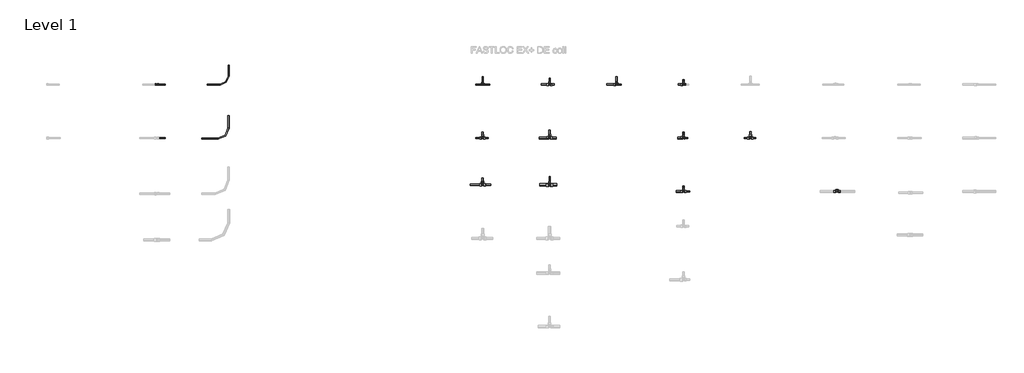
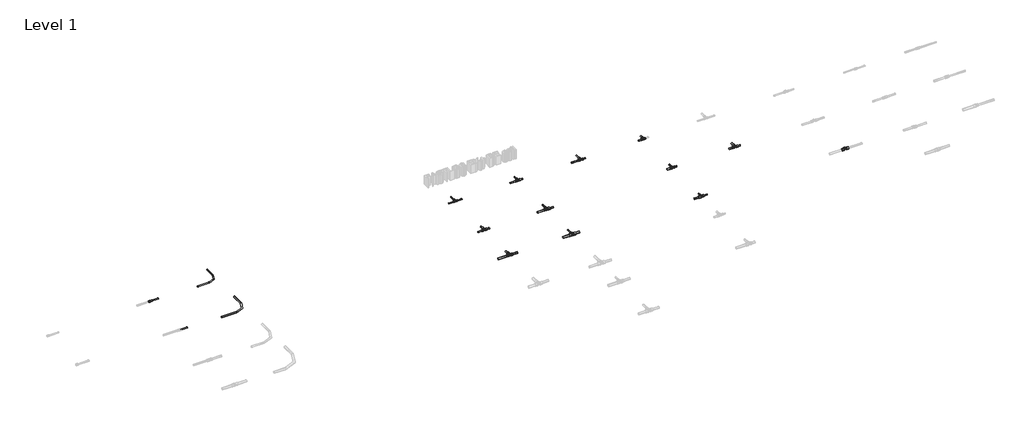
# One storey, part 13 of 16: 38 pipe segments, 16 pipe fittings.
"""IFC4 building model written with IfcOpenShell, lengths in millimetres."""

from ifc_helpers import new_model, si_unit, point, frame, frame_2d, origin, place, context, project, spatial, circle_curve, trimmed, segment, composite_curve, outline, extrude, transform, mapped, element, save
from components import pipe_fitting_688652c5, pipe_fitting_50552096, pipe_fitting_67dfde5a, pipe_fitting_bb304fa9, pipe_fitting_59775212, pipe_fitting_747b917b, pipe_fitting_d1a48cca, pipe_fitting_e42a4af1, pipe_fitting_e7337aea, pipe_fitting_b316c006, pipe_fitting_93b3fcde, pipe_fitting_ef50923d, pipe_fitting_c646100e, pipe_fitting_a9a2f976, pipe_fitting_f3faa13c, pipe_fitting_c9c9eba3

model = new_model("IFC4")

# Units and contexts
model_context = context("Model", 3, world=origin())
ifc_project = project(units=[si_unit("LENGTHUNIT", "METRE", prefix="MILLI")], contexts=[model_context])

# Site, building, storey
site = spatial("IfcSite", under=ifc_project)
building = spatial("IfcBuilding", under=site)
storey = spatial("IfcBuildingStorey", under=building, Name="Level 1", Elevation=0.0)

# Pipe fittings
placement = place(None, origin())
pipe_fitting_shape = pipe_fitting_688652c5(model_context)
element("IfcPipeFitting", 1, ObjectType="FASTLOC_T-piece internal thread EX+ : FSL T thread EX+ DE", at=placement, inside=storey, context=model_context, shape_type="MappedRepresentation", body=[
    mapped(pipe_fitting_shape, transform((34254.9423493, 412.3520033, 0.0), x_axis=(1.0, 0.0, 0.0), y_axis=(0.0, 1.0, 0.0), z_axis=(0.0, 0.0, 1.0))),
])
pipe_fitting_2_shape = pipe_fitting_50552096(model_context)
element("IfcPipeFitting", 2, ObjectType="FASTLOC_ML_bend : FSL ML DE", at=placement, inside=storey, context=model_context, shape_type="MappedRepresentation", body=[
    mapped(pipe_fitting_2_shape, transform((25170.2040344, 1204.3520033, 0.0), x_axis=(1.0, 0.0, 0.0), y_axis=(0.0, 1.0, 0.0), z_axis=(0.0, 0.0, 1.0))),
])
pipe_fitting_3_shape = pipe_fitting_67dfde5a(model_context)
element("IfcPipeFitting", 3, ObjectType="FASTLOC_T-piece_EX+ : FSL T-Piece EX+ DE", at=placement, inside=storey, context=model_context, shape_type="MappedRepresentation", body=[
    mapped(pipe_fitting_3_shape, transform((28962.9146925, 2012.3520033, 0.0), x_axis=(1.0, 0.0, 0.0), y_axis=(0.0, 1.0, 0.0), z_axis=(0.0, 0.0, 1.0))),
])
pipe_fitting_4_shape = pipe_fitting_bb304fa9(model_context)
element("IfcPipeFitting", 4, ObjectType="FASTLOC_T-piece_EX+ : FSL T-Piece EX+ DE", at=placement, inside=storey, context=model_context, shape_type="MappedRepresentation", body=[
    mapped(pipe_fitting_4_shape, transform((28962.9146925, 1212.3520033, 0.0), x_axis=(1.0, 0.0, 0.0), y_axis=(0.0, 1.0, 0.0), z_axis=(0.0, 0.0, 1.0))),
])
pipe_fitting_5_shape = pipe_fitting_59775212(model_context)
element("IfcPipeFitting", 5, ObjectType="FASTLOC_T-piece_EX+ : FSL T-Piece EX+ DE", at=placement, inside=storey, context=model_context, shape_type="MappedRepresentation", body=[
    mapped(pipe_fitting_5_shape, transform((28962.9146925, 512.3520033, 0.0), x_axis=(1.0, 0.0, 0.0), y_axis=(0.0, 1.0, 0.0), z_axis=(0.0, 0.0, 1.0))),
])
pipe_fitting_6_shape = pipe_fitting_747b917b(model_context)
element("IfcPipeFitting", 6, ObjectType="FASTLOC_T-piece_EX+ : FSL T-Piece EX+ DE", at=placement, inside=storey, context=model_context, shape_type="MappedRepresentation", body=[
    mapped(pipe_fitting_6_shape, transform((29962.9146925, 2012.3520033, 0.0), x_axis=(1.0, 0.0, 0.0), y_axis=(0.0, 1.0, 0.0), z_axis=(0.0, 0.0, 1.0))),
])
pipe_fitting_7_shape = pipe_fitting_d1a48cca(model_context)
element("IfcPipeFitting", 7, ObjectType="FASTLOC_T-piece_EX+ : FSL T-Piece EX+ DE", at=placement, inside=storey, context=model_context, shape_type="MappedRepresentation", body=[
    mapped(pipe_fitting_7_shape, transform((29962.9146925, 1212.3520033, 0.0), x_axis=(1.0, 0.0, 0.0), y_axis=(0.0, 1.0, 0.0), z_axis=(0.0, 0.0, 1.0))),
])
pipe_fitting_8_shape = pipe_fitting_e42a4af1(model_context)
element("IfcPipeFitting", 8, ObjectType="FASTLOC_T-piece_EX+ : FSL T-Piece EX+ DE", at=placement, inside=storey, context=model_context, shape_type="MappedRepresentation", body=[
    mapped(pipe_fitting_8_shape, transform((29962.9146925, 512.3520033, 0.0), x_axis=(1.0, 0.0, 0.0), y_axis=(0.0, 1.0, 0.0), z_axis=(0.0, 0.0, 1.0))),
])
pipe_fitting_9_shape = pipe_fitting_e7337aea(model_context)
element("IfcPipeFitting", 9, ObjectType="FASTLOC_T-piece_EX+ : FSL T-Piece EX+ DE", at=placement, inside=storey, context=model_context, shape_type="MappedRepresentation", body=[
    mapped(pipe_fitting_9_shape, transform((30962.9146925, 2012.3520033, 0.0), x_axis=(1.0, 0.0, 0.0), y_axis=(0.0, 1.0, 0.0), z_axis=(0.0, 0.0, 1.0))),
])
pipe_fitting_10_shape = pipe_fitting_b316c006(model_context)
element("IfcPipeFitting", 10, ObjectType="FASTLOC_T-piece_EX+ : FSL T-Piece EX+ DE", at=placement, inside=storey, context=model_context, shape_type="MappedRepresentation", body=[
    mapped(pipe_fitting_10_shape, transform((31962.9146925, 2012.3520033, 0.0), x_axis=(1.0, 0.0, 0.0), y_axis=(0.0, 1.0, 0.0), z_axis=(0.0, 0.0, 1.0))),
])
pipe_fitting_11_shape = pipe_fitting_93b3fcde(model_context)
element("IfcPipeFitting", 11, ObjectType="FASTLOC_T-piece_EX+ : FSL T-Piece EX+ DE", at=placement, inside=storey, context=model_context, shape_type="MappedRepresentation", body=[
    mapped(pipe_fitting_11_shape, transform((31962.9146925, 1212.3520033, 0.0), x_axis=(1.0, 0.0, 0.0), y_axis=(0.0, 1.0, 0.0), z_axis=(0.0, 0.0, 1.0))),
])
pipe_fitting_12_shape = pipe_fitting_ef50923d(model_context)
element("IfcPipeFitting", 12, ObjectType="FASTLOC_T-piece_EX+ : FSL T-Piece EX+ DE", at=placement, inside=storey, context=model_context, shape_type="MappedRepresentation", body=[
    mapped(pipe_fitting_12_shape, transform((31962.9146925, 412.3520033, 0.0), x_axis=(1.0, 0.0, 0.0), y_axis=(0.0, 1.0, 0.0), z_axis=(0.0, 0.0, 1.0))),
])
pipe_fitting_13_shape = pipe_fitting_c646100e(model_context)
element("IfcPipeFitting", 13, ObjectType="FASTLOC_T-piece_EX+ : FSL T-Piece EX+ DE", at=placement, inside=storey, context=model_context, shape_type="MappedRepresentation", body=[
    mapped(pipe_fitting_13_shape, transform((32962.9146925, 1212.3520033, 0.0), x_axis=(1.0, 0.0, 0.0), y_axis=(0.0, 1.0, 0.0), z_axis=(0.0, 0.0, 1.0))),
])
pipe_fitting_14_shape = pipe_fitting_a9a2f976(model_context)
element("IfcPipeFitting", 14, ObjectType="FASTLOC_ML_bend : FSL ML DE", at=placement, inside=storey, context=model_context, shape_type="MappedRepresentation", body=[
    mapped(pipe_fitting_14_shape, transform((25170.2040344, 2012.3520033, 0.0), x_axis=(1.0, 0.0, 0.0), y_axis=(0.0, 1.0, 0.0), z_axis=(0.0, 0.0, 1.0))),
])
pipe_fitting_15_shape = pipe_fitting_f3faa13c(model_context)
element("IfcPipeFitting", 15, ObjectType="FASTLOC_Adapter coupling EX+ : FSL TC EX+ DE", at=placement, inside=storey, context=model_context, shape_type="MappedRepresentation", body=[
    mapped(pipe_fitting_15_shape, transform((24091.3241081, 2012.3520033, 13.7), x_axis=(1.0, 0.0, 0.0), y_axis=(0.0, 1.0, 0.0), z_axis=(0.0, 0.0, 1.0))),
])
pipe_fitting_16_shape = pipe_fitting_c9c9eba3(model_context)
element("IfcPipeFitting", 16, ObjectType="RAUTITAN_Sleeve PX : RTI S PX", at=placement, inside=storey, context=model_context, shape_type="MappedRepresentation", body=[
    mapped(pipe_fitting_16_shape, transform((24105.0241081, 2012.3520033, 13.7), x_axis=(1.0, 0.0, 0.0), y_axis=(0.0, 1.0, 0.0), z_axis=(0.0, 0.0, 1.0))),
])

# Pipe segments
element("IfcPipeSegment", 17, ObjectType="FASTLOC EX+ ML DE bar", at=placement, inside=storey, context=model_context, shape_type="SweptSolid", body=[
    extrude(outline(composite_curve([segment(trimmed(circle_curve(frame_2d((0.0, 25170.2040344)), 8.0), [point((0.0, 25178.2040344))], [point((8.0, 25170.2040344))], False, "CARTESIAN"), True, "CONTINUOUS"), segment(trimmed(circle_curve(frame_2d((0.0, 25170.2040344)), 8.0), [point((8.0, 25170.2040344))], [point((0.0, 25162.2040344))], False, "CARTESIAN"), True, "CONTINUOUS"), segment(trimmed(circle_curve(frame_2d((0.0, 25170.2040344)), 8.0), [point((0.0, 25162.2040344))], [point((-8.0, 25170.2040344))], False, "CARTESIAN"), True, "CONTINUOUS"), segment(trimmed(circle_curve(frame_2d((0.0, 25170.2040344)), 8.0), [point((-8.0, 25170.2040344))], [point((0.0, 25178.2040344))], False, "CARTESIAN"), True, "CONTINUOUS")], self_intersect=False)), frame((0.0, 2140.3520033, 0.0), z_axis=(0.0, 1.0, 0.0), x_axis=(0.0, 0.0, 1.0)), (0.0, 0.0, 1.0), 160.0),
])
element("IfcPipeSegment", 18, ObjectType="FASTLOC EX+ ML DE bar", at=placement, inside=storey, context=model_context, shape_type="SweptSolid", body=[
    extrude(outline(composite_curve([segment(trimmed(circle_curve(frame_2d((2012.3520033, 0.0)), 8.0), [point((2020.3520033, 0.0))], [point((2012.3520033, -8.0))], False, "CARTESIAN"), True, "CONTINUOUS"), segment(trimmed(circle_curve(frame_2d((2012.3520033, 0.0)), 8.0), [point((2012.3520033, -8.0))], [point((2004.3520033, 0.0))], False, "CARTESIAN"), True, "CONTINUOUS"), segment(trimmed(circle_curve(frame_2d((2012.3520033, 0.0)), 8.0), [point((2004.3520033, 0.0))], [point((2012.3520033, 8.0))], False, "CARTESIAN"), True, "CONTINUOUS"), segment(trimmed(circle_curve(frame_2d((2012.3520033, 0.0)), 8.0), [point((2012.3520033, 8.0))], [point((2020.3520033, 0.0))], False, "CARTESIAN"), True, "CONTINUOUS")], self_intersect=False)), frame((24850.2040344, 0.0, 0.0), z_axis=(1.0, 0.0, 0.0), x_axis=(0.0, 1.0, 0.0)), (0.0, 0.0, 1.0), 192.0),
])
element("IfcPipeSegment", 19, ObjectType="FASTLOC EX+ ML DE bar", at=placement, inside=storey, context=model_context, shape_type="SweptSolid", body=[
    extrude(outline(composite_curve([segment(trimmed(circle_curve(frame_2d((0.0, 25170.2040344)), 10.0), [point((0.0, 25180.2040344))], [point((10.0, 25170.2040344))], False, "CARTESIAN"), True, "CONTINUOUS"), segment(trimmed(circle_curve(frame_2d((0.0, 25170.2040344)), 10.0), [point((10.0, 25170.2040344))], [point((0.0, 25160.2040344))], False, "CARTESIAN"), True, "CONTINUOUS"), segment(trimmed(circle_curve(frame_2d((0.0, 25170.2040344)), 10.0), [point((0.0, 25160.2040344))], [point((-10.0, 25170.2040344))], False, "CARTESIAN"), True, "CONTINUOUS"), segment(trimmed(circle_curve(frame_2d((0.0, 25170.2040344)), 10.0), [point((-10.0, 25170.2040344))], [point((0.0, 25180.2040344))], False, "CARTESIAN"), True, "CONTINUOUS")], self_intersect=False)), frame((0.0, 1364.3520033, 0.0), z_axis=(0.0, 1.0, 0.0), x_axis=(0.0, 0.0, 1.0)), (0.0, 0.0, 1.0), 180.0),
])
element("IfcPipeSegment", 20, ObjectType="FASTLOC EX+ ML DE bar", at=placement, inside=storey, context=model_context, shape_type="SweptSolid", body=[
    extrude(outline(composite_curve([segment(trimmed(circle_curve(frame_2d((1204.3520033, 0.0)), 10.0), [point((1214.3520033, 0.0))], [point((1204.3520033, -10.0))], False, "CARTESIAN"), True, "CONTINUOUS"), segment(trimmed(circle_curve(frame_2d((1204.3520033, 0.0)), 10.0), [point((1204.3520033, -10.0))], [point((1194.3520033, 0.0))], False, "CARTESIAN"), True, "CONTINUOUS"), segment(trimmed(circle_curve(frame_2d((1204.3520033, 0.0)), 10.0), [point((1194.3520033, 0.0))], [point((1204.3520033, 10.0))], False, "CARTESIAN"), True, "CONTINUOUS"), segment(trimmed(circle_curve(frame_2d((1204.3520033, 0.0)), 10.0), [point((1204.3520033, 10.0))], [point((1214.3520033, 0.0))], False, "CARTESIAN"), True, "CONTINUOUS")], self_intersect=False)), frame((24770.2040344, 0.0, 0.0), z_axis=(1.0, 0.0, 0.0), x_axis=(0.0, 1.0, 0.0)), (0.0, 0.0, 1.0), 240.0),
])
element("IfcPipeSegment", 21, ObjectType="FASTLOC EX+ ML DE bar", at=placement, inside=storey, context=model_context, shape_type="SweptSolid", body=[
    extrude(outline(composite_curve([segment(trimmed(circle_curve(frame_2d((1212.3520033, 13.7)), 10.0), [point((1202.3520033, 13.7))], [point((1212.3520033, 23.7))], False, "CARTESIAN"), True, "CONTINUOUS"), segment(trimmed(circle_curve(frame_2d((1212.3520033, 13.7)), 10.0), [point((1212.3520033, 23.7))], [point((1222.3520033, 13.7))], False, "CARTESIAN"), True, "CONTINUOUS"), segment(trimmed(circle_curve(frame_2d((1212.3520033, 13.7)), 10.0), [point((1222.3520033, 13.7))], [point((1212.3520033, 3.7))], False, "CARTESIAN"), True, "CONTINUOUS"), segment(trimmed(circle_curve(frame_2d((1212.3520033, 13.7)), 10.0), [point((1212.3520033, 3.7))], [point((1202.3520033, 13.7))], False, "CARTESIAN"), True, "CONTINUOUS")], self_intersect=False)), frame((24105.6241081, 0.0, 0.0), z_axis=(1.0, 0.0, 0.0), x_axis=(0.0, 1.0, 0.0)), (0.0, 0.0, 1.0), 120.0),
])
element("IfcPipeSegment", 22, ObjectType="FASTLOC EX+ ML DE bar", at=placement, inside=storey, context=model_context, shape_type="SweptSolid", body=[
    extrude(outline(composite_curve([segment(trimmed(circle_curve(frame_2d((2012.3520033, 13.7)), 8.0), [point((2004.3520033, 13.7))], [point((2012.3520033, 21.7))], False, "CARTESIAN"), True, "CONTINUOUS"), segment(trimmed(circle_curve(frame_2d((2012.3520033, 13.7)), 8.0), [point((2012.3520033, 21.7))], [point((2020.3520033, 13.7))], False, "CARTESIAN"), True, "CONTINUOUS"), segment(trimmed(circle_curve(frame_2d((2012.3520033, 13.7)), 8.0), [point((2020.3520033, 13.7))], [point((2012.3520033, 5.7))], False, "CARTESIAN"), True, "CONTINUOUS"), segment(trimmed(circle_curve(frame_2d((2012.3520033, 13.7)), 8.0), [point((2012.3520033, 5.7))], [point((2004.3520033, 13.7))], False, "CARTESIAN"), True, "CONTINUOUS")], self_intersect=False)), frame((24105.0241081, 0.0, 0.0), z_axis=(1.0, 0.0, 0.0), x_axis=(0.0, 1.0, 0.0)), (0.0, 0.0, 1.0), 120.6),
])
element("IfcPipeSegment", 23, ObjectType="FASTLOC EX+ ML DE coil", at=placement, inside=storey, context=model_context, shape_type="SweptSolid", body=[
    extrude(outline(composite_curve([segment(trimmed(circle_curve(frame_2d((1212.3520033, 0.0)), 10.0), [point((1222.3520033, 0.0))], [point((1212.3520033, -10.0))], False, "CARTESIAN"), True, "CONTINUOUS"), segment(trimmed(circle_curve(frame_2d((1212.3520033, 0.0)), 10.0), [point((1212.3520033, -10.0))], [point((1202.3520033, 0.0))], False, "CARTESIAN"), True, "CONTINUOUS"), segment(trimmed(circle_curve(frame_2d((1212.3520033, 0.0)), 10.0), [point((1202.3520033, 0.0))], [point((1212.3520033, 10.0))], False, "CARTESIAN"), True, "CONTINUOUS"), segment(trimmed(circle_curve(frame_2d((1212.3520033, 0.0)), 10.0), [point((1212.3520033, 10.0))], [point((1222.3520033, 0.0))], False, "CARTESIAN"), True, "CONTINUOUS")], self_intersect=False)), frame((32868.9146925, 0.0, 0.0), z_axis=(1.0, 0.0, 0.0), x_axis=(0.0, 1.0, 0.0)), (0.0, 0.0, 1.0), 75.0),
])
element("IfcPipeSegment", 24, ObjectType="FASTLOC EX+ ML DE coil", at=placement, inside=storey, context=model_context, shape_type="SweptSolid", body=[
    extrude(outline(composite_curve([segment(trimmed(circle_curve(frame_2d((1212.3520033, 0.0)), 10.0), [point((1202.3520033, 0.0))], [point((1212.3520033, 10.0))], False, "CARTESIAN"), True, "CONTINUOUS"), segment(trimmed(circle_curve(frame_2d((1212.3520033, 0.0)), 10.0), [point((1212.3520033, 10.0))], [point((1222.3520033, 0.0))], False, "CARTESIAN"), True, "CONTINUOUS"), segment(trimmed(circle_curve(frame_2d((1212.3520033, 0.0)), 10.0), [point((1222.3520033, 0.0))], [point((1212.3520033, -10.0))], False, "CARTESIAN"), True, "CONTINUOUS"), segment(trimmed(circle_curve(frame_2d((1212.3520033, 0.0)), 10.0), [point((1212.3520033, -10.0))], [point((1202.3520033, 0.0))], False, "CARTESIAN"), True, "CONTINUOUS")], self_intersect=False)), frame((32981.9146925, 0.0, 0.0), z_axis=(1.0, 0.0, 0.0), x_axis=(0.0, 1.0, 0.0)), (0.0, 0.0, 1.0), 60.0),
])
element("IfcPipeSegment", 25, ObjectType="FASTLOC EX+ ML DE coil", at=placement, inside=storey, context=model_context, shape_type="SweptSolid", body=[
    extrude(outline(composite_curve([segment(trimmed(circle_curve(frame_2d((0.0, 32962.9146925)), 12.5), [point((0.0, 32975.4146925))], [point((12.5, 32962.9146925))], False, "CARTESIAN"), True, "CONTINUOUS"), segment(trimmed(circle_curve(frame_2d((0.0, 32962.9146925)), 12.5), [point((12.5, 32962.9146925))], [point((0.0, 32950.4146925))], False, "CARTESIAN"), True, "CONTINUOUS"), segment(trimmed(circle_curve(frame_2d((0.0, 32962.9146925)), 12.5), [point((0.0, 32950.4146925))], [point((-12.5, 32962.9146925))], False, "CARTESIAN"), True, "CONTINUOUS"), segment(trimmed(circle_curve(frame_2d((0.0, 32962.9146925)), 12.5), [point((-12.5, 32962.9146925))], [point((0.0, 32975.4146925))], False, "CARTESIAN"), True, "CONTINUOUS")], self_intersect=False)), frame((0.0, 1239.1520033, 0.0), z_axis=(0.0, 1.0, 0.0), x_axis=(0.0, 0.0, 1.0)), (0.0, 0.0, 1.0), 70.0),
])
element("IfcPipeSegment", 26, ObjectType="FASTLOC EX+ ML DE coil", at=placement, inside=storey, context=model_context, shape_type="SweptSolid", body=[
    extrude(outline(composite_curve([segment(trimmed(circle_curve(frame_2d((2012.3520033, 0.0)), 10.0), [point((2022.3520033, 0.0))], [point((2012.3520033, -10.0))], False, "CARTESIAN"), True, "CONTINUOUS"), segment(trimmed(circle_curve(frame_2d((2012.3520033, 0.0)), 10.0), [point((2012.3520033, -10.0))], [point((2002.3520033, 0.0))], False, "CARTESIAN"), True, "CONTINUOUS"), segment(trimmed(circle_curve(frame_2d((2012.3520033, 0.0)), 10.0), [point((2002.3520033, 0.0))], [point((2012.3520033, 10.0))], False, "CARTESIAN"), True, "CONTINUOUS"), segment(trimmed(circle_curve(frame_2d((2012.3520033, 0.0)), 10.0), [point((2012.3520033, 10.0))], [point((2022.3520033, 0.0))], False, "CARTESIAN"), True, "CONTINUOUS")], self_intersect=False)), frame((31882.4146925, 0.0, 0.0), z_axis=(1.0, 0.0, 0.0), x_axis=(0.0, 1.0, 0.0)), (0.0, 0.0, 1.0), 65.0),
])
element("IfcPipeSegment", 27, ObjectType="FASTLOC EX+ ML DE coil", at=placement, inside=storey, context=model_context, shape_type="SweptSolid", body=[
    extrude(outline(composite_curve([segment(trimmed(circle_curve(frame_2d((0.0, 31962.9146925)), 8.0), [point((0.0, 31970.9146925))], [point((8.0, 31962.9146925))], False, "CARTESIAN"), True, "CONTINUOUS"), segment(trimmed(circle_curve(frame_2d((0.0, 31962.9146925)), 8.0), [point((8.0, 31962.9146925))], [point((0.0, 31954.9146925))], False, "CARTESIAN"), True, "CONTINUOUS"), segment(trimmed(circle_curve(frame_2d((0.0, 31962.9146925)), 8.0), [point((0.0, 31954.9146925))], [point((-8.0, 31962.9146925))], False, "CARTESIAN"), True, "CONTINUOUS"), segment(trimmed(circle_curve(frame_2d((0.0, 31962.9146925)), 8.0), [point((-8.0, 31962.9146925))], [point((0.0, 31970.9146925))], False, "CARTESIAN"), True, "CONTINUOUS")], self_intersect=False)), frame((0.0, 2038.7520033, 0.0), z_axis=(0.0, 1.0, 0.0), x_axis=(0.0, 0.0, 1.0)), (0.0, 0.0, 1.0), 50.0),
])
element("IfcPipeSegment", 28, ObjectType="FASTLOC EX+ ML DE coil", at=placement, inside=storey, context=model_context, shape_type="SweptSolid", body=[
    extrude(outline(composite_curve([segment(trimmed(circle_curve(frame_2d((1212.3520033, 0.0)), 8.0), [point((1204.3520033, 0.0))], [point((1212.3520033, 8.0))], False, "CARTESIAN"), True, "CONTINUOUS"), segment(trimmed(circle_curve(frame_2d((1212.3520033, 0.0)), 8.0), [point((1212.3520033, 8.0))], [point((1220.3520033, 0.0))], False, "CARTESIAN"), True, "CONTINUOUS"), segment(trimmed(circle_curve(frame_2d((1212.3520033, 0.0)), 8.0), [point((1220.3520033, 0.0))], [point((1212.3520033, -8.0))], False, "CARTESIAN"), True, "CONTINUOUS"), segment(trimmed(circle_curve(frame_2d((1212.3520033, 0.0)), 8.0), [point((1212.3520033, -8.0))], [point((1204.3520033, 0.0))], False, "CARTESIAN"), True, "CONTINUOUS")], self_intersect=False)), frame((31978.0146925, 0.0, 0.0), z_axis=(1.0, 0.0, 0.0), x_axis=(0.0, 1.0, 0.0)), (0.0, 0.0, 1.0), 51.7891439),
])
element("IfcPipeSegment", 29, ObjectType="FASTLOC EX+ ML DE coil", at=placement, inside=storey, context=model_context, shape_type="SweptSolid", body=[
    extrude(outline(composite_curve([segment(trimmed(circle_curve(frame_2d((1212.3520033, 0.0)), 12.5), [point((1224.8520033, 0.0))], [point((1212.3520033, -12.5))], False, "CARTESIAN"), True, "CONTINUOUS"), segment(trimmed(circle_curve(frame_2d((1212.3520033, 0.0)), 12.5), [point((1212.3520033, -12.5))], [point((1199.8520033, 0.0))], False, "CARTESIAN"), True, "CONTINUOUS"), segment(trimmed(circle_curve(frame_2d((1212.3520033, 0.0)), 12.5), [point((1199.8520033, 0.0))], [point((1212.3520033, 12.5))], False, "CARTESIAN"), True, "CONTINUOUS"), segment(trimmed(circle_curve(frame_2d((1212.3520033, 0.0)), 12.5), [point((1212.3520033, 12.5))], [point((1224.8520033, 0.0))], False, "CARTESIAN"), True, "CONTINUOUS")], self_intersect=False)), frame((31876.5146925, 0.0, 0.0), z_axis=(1.0, 0.0, 0.0), x_axis=(0.0, 1.0, 0.0)), (0.0, 0.0, 1.0), 70.0),
])
element("IfcPipeSegment", 30, ObjectType="FASTLOC EX+ ML DE coil", at=placement, inside=storey, context=model_context, shape_type="SweptSolid", body=[
    extrude(outline(composite_curve([segment(trimmed(circle_curve(frame_2d((0.0, 31962.9146925)), 8.0), [point((0.0, 31970.9146925))], [point((8.0, 31962.9146925))], False, "CARTESIAN"), True, "CONTINUOUS"), segment(trimmed(circle_curve(frame_2d((0.0, 31962.9146925)), 8.0), [point((8.0, 31962.9146925))], [point((0.0, 31954.9146925))], False, "CARTESIAN"), True, "CONTINUOUS"), segment(trimmed(circle_curve(frame_2d((0.0, 31962.9146925)), 8.0), [point((0.0, 31954.9146925))], [point((-8.0, 31962.9146925))], False, "CARTESIAN"), True, "CONTINUOUS"), segment(trimmed(circle_curve(frame_2d((0.0, 31962.9146925)), 8.0), [point((-8.0, 31962.9146925))], [point((0.0, 31970.9146925))], False, "CARTESIAN"), True, "CONTINUOUS")], self_intersect=False)), frame((0.0, 1241.4520033, 0.0), z_axis=(0.0, 1.0, 0.0), x_axis=(0.0, 0.0, 1.0)), (0.0, 0.0, 1.0), 57.2788778),
])
element("IfcPipeSegment", 31, ObjectType="FASTLOC EX+ ML DE coil", at=placement, inside=storey, context=model_context, shape_type="SweptSolid", body=[
    extrude(outline(composite_curve([segment(trimmed(circle_curve(frame_2d((412.3520033, 0.0)), 10.0), [point((402.3520033, 0.0))], [point((412.3520033, 10.0))], False, "CARTESIAN"), True, "CONTINUOUS"), segment(trimmed(circle_curve(frame_2d((412.3520033, 0.0)), 10.0), [point((412.3520033, 10.0))], [point((422.3520033, 0.0))], False, "CARTESIAN"), True, "CONTINUOUS"), segment(trimmed(circle_curve(frame_2d((412.3520033, 0.0)), 10.0), [point((422.3520033, 0.0))], [point((412.3520033, -10.0))], False, "CARTESIAN"), True, "CONTINUOUS"), segment(trimmed(circle_curve(frame_2d((412.3520033, 0.0)), 10.0), [point((412.3520033, -10.0))], [point((402.3520033, 0.0))], False, "CARTESIAN"), True, "CONTINUOUS")], self_intersect=False)), frame((31978.4146925, 0.0, 0.0), z_axis=(1.0, 0.0, 0.0), x_axis=(0.0, 1.0, 0.0)), (0.0, 0.0, 1.0), 75.0),
])
element("IfcPipeSegment", 32, ObjectType="FASTLOC EX+ ML DE coil", at=placement, inside=storey, context=model_context, shape_type="SweptSolid", body=[
    extrude(outline(composite_curve([segment(trimmed(circle_curve(frame_2d((0.0, 31962.9146925)), 8.0), [point((0.0, 31970.9146925))], [point((8.0, 31962.9146925))], False, "CARTESIAN"), True, "CONTINUOUS"), segment(trimmed(circle_curve(frame_2d((0.0, 31962.9146925)), 8.0), [point((8.0, 31962.9146925))], [point((0.0, 31954.9146925))], False, "CARTESIAN"), True, "CONTINUOUS"), segment(trimmed(circle_curve(frame_2d((0.0, 31962.9146925)), 8.0), [point((0.0, 31954.9146925))], [point((-8.0, 31962.9146925))], False, "CARTESIAN"), True, "CONTINUOUS"), segment(trimmed(circle_curve(frame_2d((0.0, 31962.9146925)), 8.0), [point((-8.0, 31962.9146925))], [point((0.0, 31970.9146925))], False, "CARTESIAN"), True, "CONTINUOUS")], self_intersect=False)), frame((0.0, 441.4520033, 0.0), z_axis=(0.0, 1.0, 0.0), x_axis=(0.0, 0.0, 1.0)), (0.0, 0.0, 1.0), 50.0),
])
element("IfcPipeSegment", 33, ObjectType="FASTLOC EX+ ML DE coil", at=placement, inside=storey, context=model_context, shape_type="SweptSolid", body=[
    extrude(outline(composite_curve([segment(trimmed(circle_curve(frame_2d((412.3520033, 0.0)), 12.5), [point((424.8520033, 0.0))], [point((412.3520033, -12.5))], False, "CARTESIAN"), True, "CONTINUOUS"), segment(trimmed(circle_curve(frame_2d((412.3520033, 0.0)), 12.5), [point((412.3520033, -12.5))], [point((399.8520033, 0.0))], False, "CARTESIAN"), True, "CONTINUOUS"), segment(trimmed(circle_curve(frame_2d((412.3520033, 0.0)), 12.5), [point((399.8520033, 0.0))], [point((412.3520033, 12.5))], False, "CARTESIAN"), True, "CONTINUOUS"), segment(trimmed(circle_curve(frame_2d((412.3520033, 0.0)), 12.5), [point((412.3520033, 12.5))], [point((424.8520033, 0.0))], False, "CARTESIAN"), True, "CONTINUOUS")], self_intersect=False)), frame((31851.5146925, 0.0, 0.0), z_axis=(1.0, 0.0, 0.0), x_axis=(0.0, 1.0, 0.0)), (0.0, 0.0, 1.0), 95.0),
])
element("IfcPipeSegment", 34, ObjectType="FASTLOC EX+ ML DE coil", at=placement, inside=storey, context=model_context, shape_type="SweptSolid", body=[
    extrude(outline(composite_curve([segment(trimmed(circle_curve(frame_2d((2012.3520033, 0.0)), 8.0), [point((2004.3520033, 0.0))], [point((2012.3520033, 8.0))], False, "CARTESIAN"), True, "CONTINUOUS"), segment(trimmed(circle_curve(frame_2d((2012.3520033, 0.0)), 8.0), [point((2012.3520033, 8.0))], [point((2020.3520033, 0.0))], False, "CARTESIAN"), True, "CONTINUOUS"), segment(trimmed(circle_curve(frame_2d((2012.3520033, 0.0)), 8.0), [point((2020.3520033, 0.0))], [point((2012.3520033, -8.0))], False, "CARTESIAN"), True, "CONTINUOUS"), segment(trimmed(circle_curve(frame_2d((2012.3520033, 0.0)), 8.0), [point((2012.3520033, -8.0))], [point((2004.3520033, 0.0))], False, "CARTESIAN"), True, "CONTINUOUS")], self_intersect=False)), frame((30979.9146925, 0.0, 0.0), z_axis=(1.0, 0.0, 0.0), x_axis=(0.0, 1.0, 0.0)), (0.0, 0.0, 1.0), 55.0),
])
element("IfcPipeSegment", 35, ObjectType="FASTLOC EX+ ML DE coil", at=placement, inside=storey, context=model_context, shape_type="SweptSolid", body=[
    extrude(outline(composite_curve([segment(trimmed(circle_curve(frame_2d((0.0, 30962.9146925)), 10.0), [point((0.0, 30972.9146925))], [point((10.0, 30962.9146925))], False, "CARTESIAN"), True, "CONTINUOUS"), segment(trimmed(circle_curve(frame_2d((0.0, 30962.9146925)), 10.0), [point((10.0, 30962.9146925))], [point((0.0, 30952.9146925))], False, "CARTESIAN"), True, "CONTINUOUS"), segment(trimmed(circle_curve(frame_2d((0.0, 30962.9146925)), 10.0), [point((0.0, 30952.9146925))], [point((-10.0, 30962.9146925))], False, "CARTESIAN"), True, "CONTINUOUS"), segment(trimmed(circle_curve(frame_2d((0.0, 30962.9146925)), 10.0), [point((-10.0, 30962.9146925))], [point((0.0, 30972.9146925))], False, "CARTESIAN"), True, "CONTINUOUS")], self_intersect=False)), frame((0.0, 2038.7520033, 0.0), z_axis=(0.0, 1.0, 0.0), x_axis=(0.0, 0.0, 1.0)), (0.0, 0.0, 1.0), 90.0),
])
element("IfcPipeSegment", 36, ObjectType="FASTLOC EX+ ML DE coil", at=placement, inside=storey, context=model_context, shape_type="SweptSolid", body=[
    extrude(outline(composite_curve([segment(trimmed(circle_curve(frame_2d((2012.3520033, 0.0)), 10.0), [point((2022.3520033, 0.0))], [point((2012.3520033, -10.0))], False, "CARTESIAN"), True, "CONTINUOUS"), segment(trimmed(circle_curve(frame_2d((2012.3520033, 0.0)), 10.0), [point((2012.3520033, -10.0))], [point((2002.3520033, 0.0))], False, "CARTESIAN"), True, "CONTINUOUS"), segment(trimmed(circle_curve(frame_2d((2012.3520033, 0.0)), 10.0), [point((2002.3520033, 0.0))], [point((2012.3520033, 10.0))], False, "CARTESIAN"), True, "CONTINUOUS"), segment(trimmed(circle_curve(frame_2d((2012.3520033, 0.0)), 10.0), [point((2012.3520033, 10.0))], [point((2022.3520033, 0.0))], False, "CARTESIAN"), True, "CONTINUOUS")], self_intersect=False)), frame((30815.5146925, 0.0, 0.0), z_axis=(1.0, 0.0, 0.0), x_axis=(0.0, 1.0, 0.0)), (0.0, 0.0, 1.0), 130.0),
])
element("IfcPipeSegment", 37, ObjectType="FASTLOC EX+ ML DE coil", at=placement, inside=storey, context=model_context, shape_type="SweptSolid", body=[
    extrude(outline(composite_curve([segment(trimmed(circle_curve(frame_2d((2012.3520033, 0.0)), 10.0), [point((2002.3520033, 0.0))], [point((2012.3520033, 10.0))], False, "CARTESIAN"), True, "CONTINUOUS"), segment(trimmed(circle_curve(frame_2d((2012.3520033, 0.0)), 10.0), [point((2012.3520033, 10.0))], [point((2022.3520033, 0.0))], False, "CARTESIAN"), True, "CONTINUOUS"), segment(trimmed(circle_curve(frame_2d((2012.3520033, 0.0)), 10.0), [point((2022.3520033, 0.0))], [point((2012.3520033, -10.0))], False, "CARTESIAN"), True, "CONTINUOUS"), segment(trimmed(circle_curve(frame_2d((2012.3520033, 0.0)), 10.0), [point((2012.3520033, -10.0))], [point((2002.3520033, 0.0))], False, "CARTESIAN"), True, "CONTINUOUS")], self_intersect=False)), frame((29978.2146925, 0.0, 0.0), z_axis=(1.0, 0.0, 0.0), x_axis=(0.0, 1.0, 0.0)), (0.0, 0.0, 1.0), 55.0),
])
element("IfcPipeSegment", 38, ObjectType="FASTLOC EX+ ML DE coil", at=placement, inside=storey, context=model_context, shape_type="SweptSolid", body=[
    extrude(outline(composite_curve([segment(trimmed(circle_curve(frame_2d((0.0, 29962.9146925)), 8.0), [point((0.0, 29970.9146925))], [point((8.0, 29962.9146925))], False, "CARTESIAN"), True, "CONTINUOUS"), segment(trimmed(circle_curve(frame_2d((0.0, 29962.9146925)), 8.0), [point((8.0, 29962.9146925))], [point((0.0, 29954.9146925))], False, "CARTESIAN"), True, "CONTINUOUS"), segment(trimmed(circle_curve(frame_2d((0.0, 29962.9146925)), 8.0), [point((0.0, 29954.9146925))], [point((-8.0, 29962.9146925))], False, "CARTESIAN"), True, "CONTINUOUS"), segment(trimmed(circle_curve(frame_2d((0.0, 29962.9146925)), 8.0), [point((-8.0, 29962.9146925))], [point((0.0, 29970.9146925))], False, "CARTESIAN"), True, "CONTINUOUS")], self_intersect=False)), frame((0.0, 2038.6520033, 0.0), z_axis=(0.0, 1.0, 0.0), x_axis=(0.0, 0.0, 1.0)), (0.0, 0.0, 1.0), 70.0),
])
element("IfcPipeSegment", 39, ObjectType="FASTLOC EX+ ML DE coil", at=placement, inside=storey, context=model_context, shape_type="SweptSolid", body=[
    extrude(outline(composite_curve([segment(trimmed(circle_curve(frame_2d((2012.3520033, 0.0)), 10.0), [point((2022.3520033, 0.0))], [point((2012.3520033, -10.0))], False, "CARTESIAN"), True, "CONTINUOUS"), segment(trimmed(circle_curve(frame_2d((2012.3520033, 0.0)), 10.0), [point((2012.3520033, -10.0))], [point((2002.3520033, 0.0))], False, "CARTESIAN"), True, "CONTINUOUS"), segment(trimmed(circle_curve(frame_2d((2012.3520033, 0.0)), 10.0), [point((2002.3520033, 0.0))], [point((2012.3520033, 10.0))], False, "CARTESIAN"), True, "CONTINUOUS"), segment(trimmed(circle_curve(frame_2d((2012.3520033, 0.0)), 10.0), [point((2012.3520033, 10.0))], [point((2022.3520033, 0.0))], False, "CARTESIAN"), True, "CONTINUOUS")], self_intersect=False)), frame((29837.6146925, 0.0, 0.0), z_axis=(1.0, 0.0, 0.0), x_axis=(0.0, 1.0, 0.0)), (0.0, 0.0, 1.0), 110.0),
])
element("IfcPipeSegment", 40, ObjectType="FASTLOC EX+ ML DE coil", at=placement, inside=storey, context=model_context, shape_type="SweptSolid", body=[
    extrude(outline(composite_curve([segment(trimmed(circle_curve(frame_2d((1212.3520033, 0.0)), 12.5), [point((1199.8520033, 0.0))], [point((1212.3520033, 12.5))], False, "CARTESIAN"), True, "CONTINUOUS"), segment(trimmed(circle_curve(frame_2d((1212.3520033, 0.0)), 12.5), [point((1212.3520033, 12.5))], [point((1224.8520033, 0.0))], False, "CARTESIAN"), True, "CONTINUOUS"), segment(trimmed(circle_curve(frame_2d((1212.3520033, 0.0)), 12.5), [point((1224.8520033, 0.0))], [point((1212.3520033, -12.5))], False, "CARTESIAN"), True, "CONTINUOUS"), segment(trimmed(circle_curve(frame_2d((1212.3520033, 0.0)), 12.5), [point((1212.3520033, -12.5))], [point((1199.8520033, 0.0))], False, "CARTESIAN"), True, "CONTINUOUS")], self_intersect=False)), frame((29981.0146925, 0.0, 0.0), z_axis=(1.0, 0.0, 0.0), x_axis=(0.0, 1.0, 0.0)), (0.0, 0.0, 1.0), 80.0),
])
element("IfcPipeSegment", 41, ObjectType="FASTLOC EX+ ML DE coil", at=placement, inside=storey, context=model_context, shape_type="SweptSolid", body=[
    extrude(outline(composite_curve([segment(trimmed(circle_curve(frame_2d((0.0, 29962.9146925)), 10.0), [point((0.0, 29972.9146925))], [point((10.0, 29962.9146925))], False, "CARTESIAN"), True, "CONTINUOUS"), segment(trimmed(circle_curve(frame_2d((0.0, 29962.9146925)), 10.0), [point((10.0, 29962.9146925))], [point((0.0, 29952.9146925))], False, "CARTESIAN"), True, "CONTINUOUS"), segment(trimmed(circle_curve(frame_2d((0.0, 29962.9146925)), 10.0), [point((0.0, 29952.9146925))], [point((-10.0, 29962.9146925))], False, "CARTESIAN"), True, "CONTINUOUS"), segment(trimmed(circle_curve(frame_2d((0.0, 29962.9146925)), 10.0), [point((-10.0, 29962.9146925))], [point((0.0, 29972.9146925))], False, "CARTESIAN"), True, "CONTINUOUS")], self_intersect=False)), frame((0.0, 1241.5520033, 0.0), z_axis=(0.0, 1.0, 0.0), x_axis=(0.0, 0.0, 1.0)), (0.0, 0.0, 1.0), 90.0),
])
element("IfcPipeSegment", 42, ObjectType="FASTLOC EX+ ML DE coil", at=placement, inside=storey, context=model_context, shape_type="SweptSolid", body=[
    extrude(outline(composite_curve([segment(trimmed(circle_curve(frame_2d((1212.3520033, 0.0)), 12.5), [point((1224.8520033, 0.0))], [point((1212.3520033, -12.5))], False, "CARTESIAN"), True, "CONTINUOUS"), segment(trimmed(circle_curve(frame_2d((1212.3520033, 0.0)), 12.5), [point((1212.3520033, -12.5))], [point((1199.8520033, 0.0))], False, "CARTESIAN"), True, "CONTINUOUS"), segment(trimmed(circle_curve(frame_2d((1212.3520033, 0.0)), 12.5), [point((1199.8520033, 0.0))], [point((1212.3520033, 12.5))], False, "CARTESIAN"), True, "CONTINUOUS"), segment(trimmed(circle_curve(frame_2d((1212.3520033, 0.0)), 12.5), [point((1212.3520033, 12.5))], [point((1224.8520033, 0.0))], False, "CARTESIAN"), True, "CONTINUOUS")], self_intersect=False)), frame((29809.8146925, 0.0, 0.0), z_axis=(1.0, 0.0, 0.0), x_axis=(0.0, 1.0, 0.0)), (0.0, 0.0, 1.0), 135.0),
])
element("IfcPipeSegment", 43, ObjectType="FASTLOC EX+ ML DE coil", at=placement, inside=storey, context=model_context, shape_type="SweptSolid", body=[
    extrude(outline(composite_curve([segment(trimmed(circle_curve(frame_2d((512.3520033, 0.0)), 16.0), [point((496.3520033, 0.0))], [point((512.3520033, 16.0))], False, "CARTESIAN"), True, "CONTINUOUS"), segment(trimmed(circle_curve(frame_2d((512.3520033, 0.0)), 16.0), [point((512.3520033, 16.0))], [point((528.3520033, 0.0))], False, "CARTESIAN"), True, "CONTINUOUS"), segment(trimmed(circle_curve(frame_2d((512.3520033, 0.0)), 16.0), [point((528.3520033, 0.0))], [point((512.3520033, -16.0))], False, "CARTESIAN"), True, "CONTINUOUS"), segment(trimmed(circle_curve(frame_2d((512.3520033, 0.0)), 16.0), [point((512.3520033, -16.0))], [point((496.3520033, 0.0))], False, "CARTESIAN"), True, "CONTINUOUS")], self_intersect=False)), frame((29981.2146925, 0.0, 0.0), z_axis=(1.0, 0.0, 0.0), x_axis=(0.0, 1.0, 0.0)), (0.0, 0.0, 1.0), 90.0),
])
element("IfcPipeSegment", 44, ObjectType="FASTLOC EX+ ML DE coil", at=placement, inside=storey, context=model_context, shape_type="SweptSolid", body=[
    extrude(outline(composite_curve([segment(trimmed(circle_curve(frame_2d((0.0, 29962.9146925)), 8.0), [point((0.0, 29970.9146925))], [point((8.0, 29962.9146925))], False, "CARTESIAN"), True, "CONTINUOUS"), segment(trimmed(circle_curve(frame_2d((0.0, 29962.9146925)), 8.0), [point((8.0, 29962.9146925))], [point((0.0, 29954.9146925))], False, "CARTESIAN"), True, "CONTINUOUS"), segment(trimmed(circle_curve(frame_2d((0.0, 29962.9146925)), 8.0), [point((0.0, 29954.9146925))], [point((-8.0, 29962.9146925))], False, "CARTESIAN"), True, "CONTINUOUS"), segment(trimmed(circle_curve(frame_2d((0.0, 29962.9146925)), 8.0), [point((-8.0, 29962.9146925))], [point((0.0, 29970.9146925))], False, "CARTESIAN"), True, "CONTINUOUS")], self_intersect=False)), frame((0.0, 546.2520033, 0.0), z_axis=(0.0, 1.0, 0.0), x_axis=(0.0, 0.0, 1.0)), (0.0, 0.0, 1.0), 90.0),
])
element("IfcPipeSegment", 45, ObjectType="FASTLOC EX+ ML DE coil", at=placement, inside=storey, context=model_context, shape_type="SweptSolid", body=[
    extrude(outline(composite_curve([segment(trimmed(circle_curve(frame_2d((512.3520033, 0.0)), 16.0), [point((528.3520033, 0.0))], [point((512.3520033, -16.0))], False, "CARTESIAN"), True, "CONTINUOUS"), segment(trimmed(circle_curve(frame_2d((512.3520033, 0.0)), 16.0), [point((512.3520033, -16.0))], [point((496.3520033, 0.0))], False, "CARTESIAN"), True, "CONTINUOUS"), segment(trimmed(circle_curve(frame_2d((512.3520033, 0.0)), 16.0), [point((496.3520033, 0.0))], [point((512.3520033, 16.0))], False, "CARTESIAN"), True, "CONTINUOUS"), segment(trimmed(circle_curve(frame_2d((512.3520033, 0.0)), 16.0), [point((512.3520033, 16.0))], [point((528.3520033, 0.0))], False, "CARTESIAN"), True, "CONTINUOUS")], self_intersect=False)), frame((29814.6146925, 0.0, 0.0), z_axis=(1.0, 0.0, 0.0), x_axis=(0.0, 1.0, 0.0)), (0.0, 0.0, 1.0), 130.0),
])
element("IfcPipeSegment", 46, ObjectType="FASTLOC EX+ ML DE coil", at=placement, inside=storey, context=model_context, shape_type="SweptSolid", body=[
    extrude(outline(composite_curve([segment(trimmed(circle_curve(frame_2d((0.0, 28962.9146925)), 12.5), [point((0.0, 28975.4146925))], [point((12.5, 28962.9146925))], False, "CARTESIAN"), True, "CONTINUOUS"), segment(trimmed(circle_curve(frame_2d((0.0, 28962.9146925)), 12.5), [point((12.5, 28962.9146925))], [point((0.0, 28950.4146925))], False, "CARTESIAN"), True, "CONTINUOUS"), segment(trimmed(circle_curve(frame_2d((0.0, 28962.9146925)), 12.5), [point((0.0, 28950.4146925))], [point((-12.5, 28962.9146925))], False, "CARTESIAN"), True, "CONTINUOUS"), segment(trimmed(circle_curve(frame_2d((0.0, 28962.9146925)), 12.5), [point((-12.5, 28962.9146925))], [point((0.0, 28975.4146925))], False, "CARTESIAN"), True, "CONTINUOUS")], self_intersect=False)), frame((0.0, 541.8520033, 0.0), z_axis=(0.0, 1.0, 0.0), x_axis=(0.0, 0.0, 1.0)), (0.0, 0.0, 1.0), 70.0),
])
element("IfcPipeSegment", 47, ObjectType="FASTLOC EX+ ML DE coil", at=placement, inside=storey, context=model_context, shape_type="SweptSolid", body=[
    extrude(outline(composite_curve([segment(trimmed(circle_curve(frame_2d((512.3520033, 0.0)), 12.5), [point((499.8520033, 0.0))], [point((512.3520033, 12.5))], False, "CARTESIAN"), True, "CONTINUOUS"), segment(trimmed(circle_curve(frame_2d((512.3520033, 0.0)), 12.5), [point((512.3520033, 12.5))], [point((524.8520033, 0.0))], False, "CARTESIAN"), True, "CONTINUOUS"), segment(trimmed(circle_curve(frame_2d((512.3520033, 0.0)), 12.5), [point((524.8520033, 0.0))], [point((512.3520033, -12.5))], False, "CARTESIAN"), True, "CONTINUOUS"), segment(trimmed(circle_curve(frame_2d((512.3520033, 0.0)), 12.5), [point((512.3520033, -12.5))], [point((499.8520033, 0.0))], False, "CARTESIAN"), True, "CONTINUOUS")], self_intersect=False)), frame((28982.8146925, 0.0, 0.0), z_axis=(1.0, 0.0, 0.0), x_axis=(0.0, 1.0, 0.0)), (0.0, 0.0, 1.0), 105.0),
])
element("IfcPipeSegment", 48, ObjectType="FASTLOC EX+ ML DE coil", at=placement, inside=storey, context=model_context, shape_type="SweptSolid", body=[
    extrude(outline(composite_curve([segment(trimmed(circle_curve(frame_2d((512.3520033, 0.0)), 12.5), [point((524.8520033, 0.0))], [point((512.3520033, -12.5))], False, "CARTESIAN"), True, "CONTINUOUS"), segment(trimmed(circle_curve(frame_2d((512.3520033, 0.0)), 12.5), [point((512.3520033, -12.5))], [point((499.8520033, 0.0))], False, "CARTESIAN"), True, "CONTINUOUS"), segment(trimmed(circle_curve(frame_2d((512.3520033, 0.0)), 12.5), [point((499.8520033, 0.0))], [point((512.3520033, 12.5))], False, "CARTESIAN"), True, "CONTINUOUS"), segment(trimmed(circle_curve(frame_2d((512.3520033, 0.0)), 12.5), [point((512.3520033, 12.5))], [point((524.8520033, 0.0))], False, "CARTESIAN"), True, "CONTINUOUS")], self_intersect=False)), frame((28778.0146925, 0.0, 0.0), z_axis=(1.0, 0.0, 0.0), x_axis=(0.0, 1.0, 0.0)), (0.0, 0.0, 1.0), 165.0),
])
element("IfcPipeSegment", 49, ObjectType="FASTLOC EX+ ML DE coil", at=placement, inside=storey, context=model_context, shape_type="SweptSolid", body=[
    extrude(outline(composite_curve([segment(trimmed(circle_curve(frame_2d((1212.3520033, 0.0)), 10.0), [point((1202.3520033, 0.0))], [point((1212.3520033, 10.0))], False, "CARTESIAN"), True, "CONTINUOUS"), segment(trimmed(circle_curve(frame_2d((1212.3520033, 0.0)), 10.0), [point((1212.3520033, 10.0))], [point((1222.3520033, 0.0))], False, "CARTESIAN"), True, "CONTINUOUS"), segment(trimmed(circle_curve(frame_2d((1212.3520033, 0.0)), 10.0), [point((1222.3520033, 0.0))], [point((1212.3520033, -10.0))], False, "CARTESIAN"), True, "CONTINUOUS"), segment(trimmed(circle_curve(frame_2d((1212.3520033, 0.0)), 10.0), [point((1212.3520033, -10.0))], [point((1202.3520033, 0.0))], False, "CARTESIAN"), True, "CONTINUOUS")], self_intersect=False)), frame((28980.1146925, 0.0, 0.0), z_axis=(1.0, 0.0, 0.0), x_axis=(0.0, 1.0, 0.0)), (0.0, 0.0, 1.0), 65.0),
])
element("IfcPipeSegment", 50, ObjectType="FASTLOC EX+ ML DE coil", at=placement, inside=storey, context=model_context, shape_type="SweptSolid", body=[
    extrude(outline(composite_curve([segment(trimmed(circle_curve(frame_2d((0.0, 28962.9146925)), 10.0), [point((0.0, 28972.9146925))], [point((10.0, 28962.9146925))], False, "CARTESIAN"), True, "CONTINUOUS"), segment(trimmed(circle_curve(frame_2d((0.0, 28962.9146925)), 10.0), [point((10.0, 28962.9146925))], [point((0.0, 28952.9146925))], False, "CARTESIAN"), True, "CONTINUOUS"), segment(trimmed(circle_curve(frame_2d((0.0, 28962.9146925)), 10.0), [point((0.0, 28952.9146925))], [point((-10.0, 28962.9146925))], False, "CARTESIAN"), True, "CONTINUOUS"), segment(trimmed(circle_curve(frame_2d((0.0, 28962.9146925)), 10.0), [point((-10.0, 28962.9146925))], [point((0.0, 28972.9146925))], False, "CARTESIAN"), True, "CONTINUOUS")], self_intersect=False)), frame((0.0, 1238.7520033, 0.0), z_axis=(0.0, 1.0, 0.0), x_axis=(0.0, 0.0, 1.0)), (0.0, 0.0, 1.0), 65.0),
])
element("IfcPipeSegment", 51, ObjectType="FASTLOC EX+ ML DE coil", at=placement, inside=storey, context=model_context, shape_type="SweptSolid", body=[
    extrude(outline(composite_curve([segment(trimmed(circle_curve(frame_2d((1212.3520033, 0.0)), 10.0), [point((1222.3520033, 0.0))], [point((1212.3520033, -10.0))], False, "CARTESIAN"), True, "CONTINUOUS"), segment(trimmed(circle_curve(frame_2d((1212.3520033, 0.0)), 10.0), [point((1212.3520033, -10.0))], [point((1202.3520033, 0.0))], False, "CARTESIAN"), True, "CONTINUOUS"), segment(trimmed(circle_curve(frame_2d((1212.3520033, 0.0)), 10.0), [point((1202.3520033, 0.0))], [point((1212.3520033, 10.0))], False, "CARTESIAN"), True, "CONTINUOUS"), segment(trimmed(circle_curve(frame_2d((1212.3520033, 0.0)), 10.0), [point((1212.3520033, 10.0))], [point((1222.3520033, 0.0))], False, "CARTESIAN"), True, "CONTINUOUS")], self_intersect=False)), frame((28860.7146925, 0.0, 0.0), z_axis=(1.0, 0.0, 0.0), x_axis=(0.0, 1.0, 0.0)), (0.0, 0.0, 1.0), 85.0),
])
element("IfcPipeSegment", 52, ObjectType="FASTLOC EX+ ML DE coil", at=placement, inside=storey, context=model_context, shape_type="SweptSolid", body=[
    extrude(outline(composite_curve([segment(trimmed(circle_curve(frame_2d((2012.3520033, 0.0)), 8.0), [point((2004.3520033, 0.0))], [point((2012.3520033, 8.0))], False, "CARTESIAN"), True, "CONTINUOUS"), segment(trimmed(circle_curve(frame_2d((2012.3520033, 0.0)), 8.0), [point((2012.3520033, 8.0))], [point((2020.3520033, 0.0))], False, "CARTESIAN"), True, "CONTINUOUS"), segment(trimmed(circle_curve(frame_2d((2012.3520033, 0.0)), 8.0), [point((2020.3520033, 0.0))], [point((2012.3520033, -8.0))], False, "CARTESIAN"), True, "CONTINUOUS"), segment(trimmed(circle_curve(frame_2d((2012.3520033, 0.0)), 8.0), [point((2012.3520033, -8.0))], [point((2004.3520033, 0.0))], False, "CARTESIAN"), True, "CONTINUOUS")], self_intersect=False)), frame((28977.9146925, 0.0, 0.0), z_axis=(1.0, 0.0, 0.0), x_axis=(0.0, 1.0, 0.0)), (0.0, 0.0, 1.0), 90.0),
])
element("IfcPipeSegment", 53, ObjectType="FASTLOC EX+ ML DE coil", at=placement, inside=storey, context=model_context, shape_type="SweptSolid", body=[
    extrude(outline(composite_curve([segment(trimmed(circle_curve(frame_2d((2012.3520033, 0.0)), 8.0), [point((2020.3520033, 0.0))], [point((2012.3520033, -8.0))], False, "CARTESIAN"), True, "CONTINUOUS"), segment(trimmed(circle_curve(frame_2d((2012.3520033, 0.0)), 8.0), [point((2012.3520033, -8.0))], [point((2004.3520033, 0.0))], False, "CARTESIAN"), True, "CONTINUOUS"), segment(trimmed(circle_curve(frame_2d((2012.3520033, 0.0)), 8.0), [point((2004.3520033, 0.0))], [point((2012.3520033, 8.0))], False, "CARTESIAN"), True, "CONTINUOUS"), segment(trimmed(circle_curve(frame_2d((2012.3520033, 0.0)), 8.0), [point((2012.3520033, 8.0))], [point((2020.3520033, 0.0))], False, "CARTESIAN"), True, "CONTINUOUS")], self_intersect=False)), frame((28857.9146925, 0.0, 0.0), z_axis=(1.0, 0.0, 0.0), x_axis=(0.0, 1.0, 0.0)), (0.0, 0.0, 1.0), 90.0),
])
element("IfcPipeSegment", 54, ObjectType="FASTLOC EX+ ML DE coil", at=placement, inside=storey, context=model_context, shape_type="SweptSolid", body=[
    extrude(outline(composite_curve([segment(trimmed(circle_curve(frame_2d((0.0, 28962.9146925)), 8.0), [point((0.0, 28970.9146925))], [point((8.0, 28962.9146925))], False, "CARTESIAN"), True, "CONTINUOUS"), segment(trimmed(circle_curve(frame_2d((0.0, 28962.9146925)), 8.0), [point((8.0, 28962.9146925))], [point((0.0, 28954.9146925))], False, "CARTESIAN"), True, "CONTINUOUS"), segment(trimmed(circle_curve(frame_2d((0.0, 28962.9146925)), 8.0), [point((0.0, 28954.9146925))], [point((-8.0, 28962.9146925))], False, "CARTESIAN"), True, "CONTINUOUS"), segment(trimmed(circle_curve(frame_2d((0.0, 28962.9146925)), 8.0), [point((-8.0, 28962.9146925))], [point((0.0, 28970.9146925))], False, "CARTESIAN"), True, "CONTINUOUS")], self_intersect=False)), frame((0.0, 2034.4520033, 0.0), z_axis=(0.0, 1.0, 0.0), x_axis=(0.0, 0.0, 1.0)), (0.0, 0.0, 1.0), 95.0),
])

save(model, "model.ifc")
